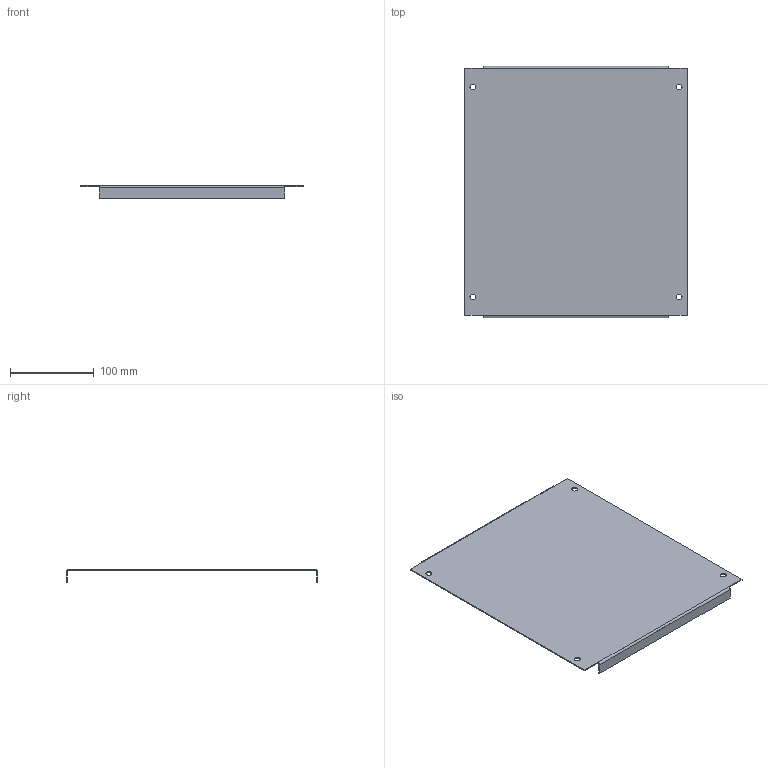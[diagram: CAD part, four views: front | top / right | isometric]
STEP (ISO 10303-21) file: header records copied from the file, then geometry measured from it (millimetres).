
FILE_DESCRIPTION (( 'STEP AP203' ), '1' );
FILE_NAME ('MB 30.30 Ïàíåëü ìîäóëüíàÿ.STEP', '2022-05-12T11:38:29', ( '' ), ( '' ), 'SwSTEP 2.0', 'SolidWorks 2018', '' );
FILE_SCHEMA (( 'CONFIG_CONTROL_DESIGN' ));
Length unit declared in the file: millimetre
Products named in the file (1): MB 30.30 Ïàíåëü ìîäóëüíàÿ
Bounding box: 265 x 299 x 15 mm (x, y, z)
Volume: 101531.4 mm3; surface area: 170740.6 mm2
Topology: 1 solids, 1 shells, 34 faces, 80 edges, 48 vertices
Faces by surface type: plane 22, cylinder 12
Entity records: 1053 total; most frequent: DIRECTION 174, CARTESIAN_POINT 163, ORIENTED_EDGE 160, EDGE_CURVE 80, AXIS2_PLACEMENT_3D 59, LINE 56, VECTOR 56, VERTEX_POINT 48
